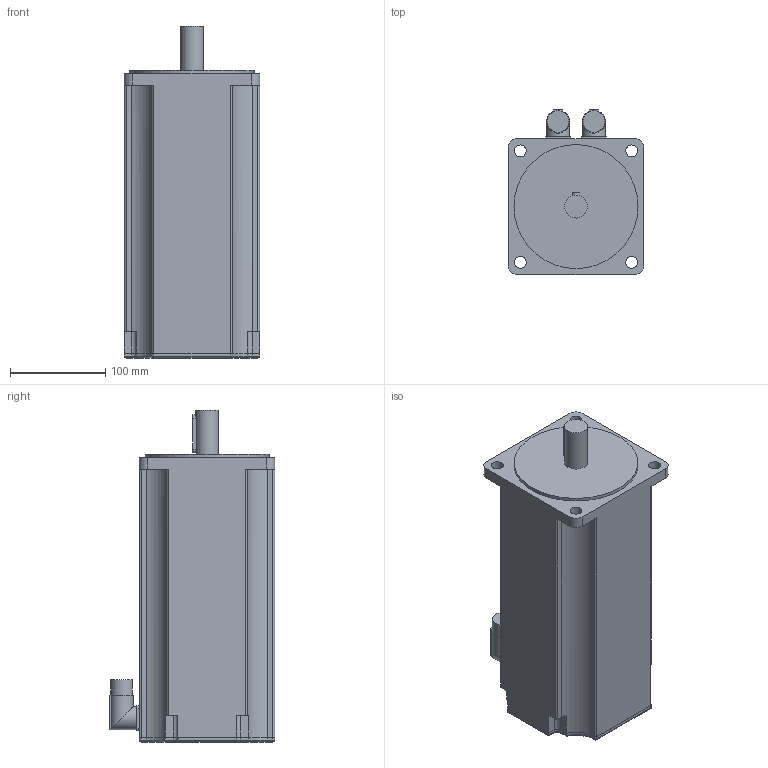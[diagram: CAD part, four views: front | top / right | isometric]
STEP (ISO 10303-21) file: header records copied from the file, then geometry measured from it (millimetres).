
FILE_DESCRIPTION(/* description */ (''),/* implementation_level */ '2;1');
FILE_NAME(/* name */ '\\Lafnas01\disegni\Archivi Lafert\3D\CAD 3D\MODELLI\Assiemi clienti\Serad\Modelli 3D Serad\B71Q\Resolver\Res Without Brake\B7126Qxx6A052033.ipt.stp',/* time_stamp */ '2015-09-07T10:53:03+02:00',/* author */ ('Pastrello Ylenia'),/* organization */ (''),/* preprocessor_version */ 'ST-DEVELOPER v15.6',/* originating_system */ 'Autodesk Inventor 2015',/* authorisation */ '');
FILE_SCHEMA (('AUTOMOTIVE_DESIGN { 1 0 10303 214 3 1 1 }'));
Length unit declared in the file: millimetre
Products named in the file (1): B7126Qxx6A052033
Bounding box: 142 x 173.5 x 348 mm (x, y, z)
Volume: 5312099.8 mm3; surface area: 209493.2 mm2
Topology: 1 solids, 1 shells, 154 faces, 400 edges, 258 vertices
Faces by surface type: plane 72, cylinder 70, torus 8, sphere 4
Full cylindrical faces by diameter (mm): 12.5 x4, 22.7 x2, 24 x3, 130 x1
Entity records: 4790 total; most frequent: CARTESIAN_POINT 933, DIRECTION 828, ORIENTED_EDGE 772, EDGE_CURVE 386, AXIS2_PLACEMENT_3D 297, VERTEX_POINT 254, LINE 234, VECTOR 234
